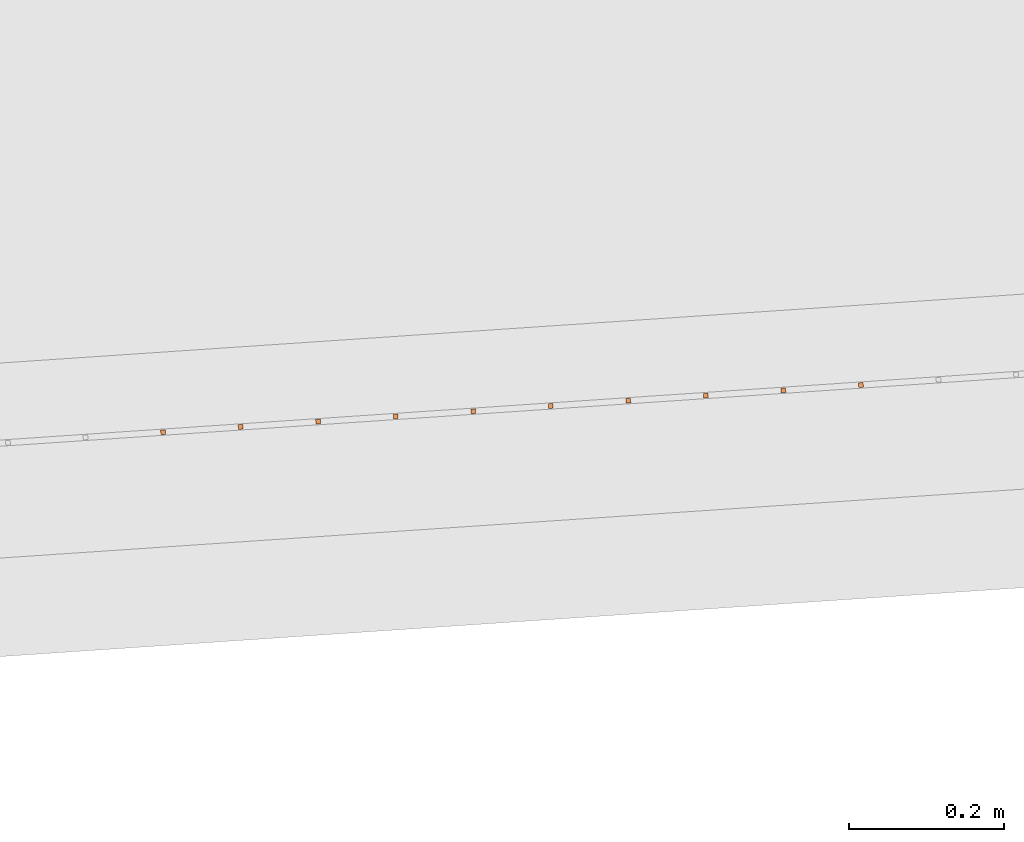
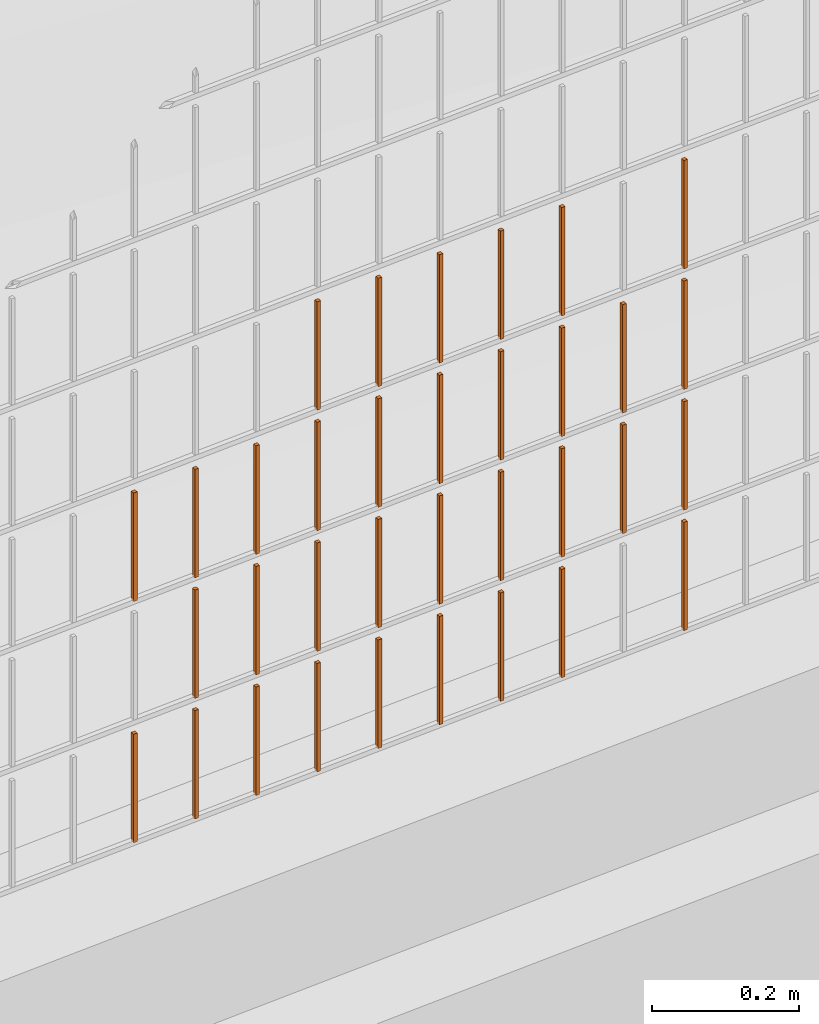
# One storey, part 383 of 1809: 34 proxies, 1 element without a shape of its own.
"""IFC2X3 building model written with IfcOpenShell, lengths in millimetres."""

from ifc_helpers import new_model, entity, si_unit, converted_unit, derived_unit, money_unit, direction, frame, origin_with_axes, place, context, subcontext, project, spatial, faceted_brep, source, transform, mapped, material, type_object, element, aggregate, save


model = new_model("IFC2X3")

# Units and contexts
model_context = context("Model", 3, precision=0.01, world=origin_with_axes(), true_north=direction((0.0, 1.0)))
body_context = subcontext(model_context, "Body", "Model", "MODEL_VIEW")
ifc_project = project(units=[si_unit("LENGTHUNIT", "METRE", prefix="MILLI"), si_unit("AREAUNIT", "SQUARE_METRE"), si_unit("VOLUMEUNIT", "CUBIC_METRE"), converted_unit("PLANEANGLEUNIT", "DEGREE", entity("IfcPlaneAngleMeasure", 0.0174532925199), si_unit("PLANEANGLEUNIT", "RADIAN"), dimensions=[0, 0, 0, 0, 0, 0, 0]), si_unit("SOLIDANGLEUNIT", "STERADIAN"), money_unit("EUR"), converted_unit("TIMEUNIT", "Year", entity("IfcTimeMeasure", 31556926.0), si_unit("TIMEUNIT", "SECOND"), dimensions=[0, 0, 1, 0, 0, 0, 0]), si_unit("MASSUNIT", "GRAM", prefix="KILO"), si_unit("THERMODYNAMICTEMPERATUREUNIT", "DEGREE_CELSIUS"), si_unit("LUMINOUSINTENSITYUNIT", "LUMEN"), si_unit("ENERGYUNIT", "JOULE", prefix="MEGA"), derived_unit("THERMALCONDUCTANCEUNIT", [(si_unit("POWERUNIT", "WATT"), 1), (si_unit("LENGTHUNIT", "METRE"), -1), (si_unit("THERMODYNAMICTEMPERATUREUNIT", "KELVIN"), -1)]), derived_unit("SPECIFICHEATCAPACITYUNIT", [(si_unit("ENERGYUNIT", "JOULE"), 1), (si_unit("MASSUNIT", "GRAM", prefix="KILO"), -1), (si_unit("THERMODYNAMICTEMPERATUREUNIT", "KELVIN"), -1)]), derived_unit("MASSDENSITYUNIT", [(si_unit("MASSUNIT", "GRAM", prefix="KILO"), 1), (si_unit("VOLUMEUNIT", "CUBIC_METRE"), -1)])], contexts=[model_context])

# Site, building, storey
site_placement = place(None, origin_with_axes())
site = spatial("IfcSite", under=ifc_project, at=site_placement, Name="Politse- ja Piirivalveameti ning Päästeameti ühishoone", CompositionType="ELEMENT")
building_placement = place(site_placement, origin_with_axes())
building = spatial("IfcBuilding", under=site, at=building_placement, Name="Politse- ja Piirivalveameti ning Päästeameti ühishoone", CompositionType="ELEMENT")
storey_placement = place(building_placement, origin_with_axes())
storey = spatial("IfcBuildingStorey", under=building, at=storey_placement, Name="Esimene korrus", CompositionType="ELEMENT", Elevation=0.0)

# Proxies
building_element_proxy_type_1 = type_object("IfcBuildingElementProxyType", Name="Railing Type", PredefinedType="NOTDEFINED")
proxy_1_placement = place(storey_placement, frame((89252.001212, -29183.4766571, 203.661247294), z_axis=(0.0, 0.0, 1.0), x_axis=(1.0, 0.0, 0.0)))
proxy_1 = element("IfcBuildingElementProxy", 1, at=proxy_1_placement, inside=storey, type_object=building_element_proxy_type_1, Name="PIIRDEAED")
ifc_material = material(Name="ET-03_Raud")
building_element_proxy_type_2 = type_object("IfcBuildingElementProxyType", Name="IfcBuildingElementProxy", PredefinedType="NOTDEFINED")
shared_shape_1 = source(origin_with_axes(), body_context, "Body", "Brep", [
    faceted_brep([(3.0, 3.0, -0.000752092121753), (-3.0, 3.0, -0.000752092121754), (-3.0, 3.0, 179.99926046), (3.0, 3.0, 179.99926046), (3.0, -3.0, 0.000752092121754), (-3.0, -3.0, 0.000752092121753), (-3.0, -3.0, 180.000764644), (3.0, -3.0, 180.000764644)], [[[0, 1, 2, 3]], [[0, 4, 5, 1]], [[1, 5, 6, 2]], [[3, 2, 6, 7]], [[4, 0, 3, 7]], [[5, 4, 7, 6]]]),
])
proxy_2_placement = place(proxy_1_placement, frame((-15192.0705547, -18323.9417948, 23.4170948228), z_axis=(0.0, 0.0, 1.0), x_axis=(1.0, 0.0, 0.0)))
proxy_2 = element("IfcBuildingElementProxy", 2, at=proxy_2_placement, type_object=building_element_proxy_type_2, material=ifc_material, Name="BALUSTER - 001", context=body_context, shape_type="MappedRepresentation", body=[
    mapped(shared_shape_1, transform((0.0, 0.0, 0.0), x_axis=(-0.0673926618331, 0.997726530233, 0.0), y_axis=(-0.997726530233, -0.0673926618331, 0.0), z_axis=(0.0, 0.0, 1.0))),
])
shared_shape_2 = source(origin_with_axes(), body_context, "Body", "Brep", [
    faceted_brep([(3.0, 3.0, -0.000752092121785), (-3.0, 3.0, -0.000752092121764), (-3.0, 3.0, 179.99926046), (3.0, 3.0, 179.99926046), (3.0, -3.0, 0.000752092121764), (-3.0, -3.0, 0.000752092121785), (-3.0, -3.0, 180.000764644), (3.0, -3.0, 180.000764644)], [[[0, 1, 2, 3]], [[0, 4, 5, 1]], [[1, 5, 6, 2]], [[3, 2, 6, 7]], [[4, 0, 3, 7]], [[5, 4, 7, 6]]]),
])
proxy_3_placement = place(proxy_1_placement, frame((-15890.4791259, -18371.1166581, 23.2416066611), z_axis=(0.0, 0.0, 1.0), x_axis=(1.0, 0.0, 0.0)))
proxy_3 = element("IfcBuildingElementProxy", 3, at=proxy_3_placement, type_object=building_element_proxy_type_2, material=ifc_material, Name="BALUSTER - 001", context=body_context, shape_type="MappedRepresentation", body=[
    mapped(shared_shape_2, transform((0.0, 0.0, 0.0), x_axis=(-0.0673926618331, 0.997726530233, 0.0), y_axis=(-0.997726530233, -0.0673926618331, 0.0), z_axis=(0.0, 0.0, 1.0))),
])
shared_shape_3 = source(origin_with_axes(), body_context, "Body", "Brep", [
    faceted_brep([(3.0, 3.0, -0.000752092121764), (-3.0, 3.0, -0.000752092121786), (-3.0, 3.0, 179.99926046), (3.0, 3.0, 179.99926046), (3.0, -3.0, 0.000752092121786), (-3.0, -3.0, 0.000752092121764), (-3.0, -3.0, 180.000764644), (3.0, -3.0, 180.000764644)], [[[0, 1, 2, 3]], [[0, 4, 5, 1]], [[1, 5, 6, 2]], [[3, 2, 6, 7]], [[4, 0, 3, 7]], [[5, 4, 7, 6]]]),
])
proxy_4_placement = place(proxy_1_placement, frame((-15391.6158608, -18337.4203271, 23.366955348), z_axis=(0.0, 0.0, 1.0), x_axis=(1.0, 0.0, 0.0)))
proxy_4 = element("IfcBuildingElementProxy", 4, at=proxy_4_placement, type_object=building_element_proxy_type_2, material=ifc_material, Name="BALUSTER - 001", context=body_context, shape_type="MappedRepresentation", body=[
    mapped(shared_shape_3, transform((0.0, 0.0, 0.0), x_axis=(-0.0673926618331, 0.997726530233, 0.0), y_axis=(-0.997726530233, -0.0673926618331, 0.0), z_axis=(0.0, 0.0, 1.0))),
])
proxy_5_placement = place(proxy_1_placement, frame((-15990.2517789, -18377.8559242, 23.2165369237), z_axis=(0.0, 0.0, 1.0), x_axis=(1.0, 0.0, 0.0)))
proxy_5 = element("IfcBuildingElementProxy", 5, at=proxy_5_placement, type_object=building_element_proxy_type_2, material=ifc_material, Name="BALUSTER - 001", context=body_context, shape_type="MappedRepresentation", body=[
    mapped(shared_shape_3, transform((0.0, 0.0, 0.0), x_axis=(-0.0673926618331, 0.997726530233, 0.0), y_axis=(-0.997726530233, -0.0673926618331, 0.0), z_axis=(0.0, 0.0, 1.0))),
])
shared_shape_4 = source(origin_with_axes(), body_context, "Body", "Brep", [
    faceted_brep([(3.0, 3.0, -0.000752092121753), (-3.0, 3.0, -0.000752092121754), (-3.0, 3.0, 179.99926046), (3.0, 3.0, 179.99926046), (3.0, -3.0, 0.000752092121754), (-3.0, -3.0, 0.000752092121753), (-3.0, -3.0, 180.000764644), (3.0, -3.0, 180.000764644)], [[[0, 1, 2, 3]], [[0, 4, 5, 1]], [[1, 5, 6, 2]], [[3, 2, 6, 7]], [[4, 0, 3, 7]], [[5, 4, 7, 6]]]),
])
proxy_6_placement = place(proxy_1_placement, frame((-15192.0705547, -18323.9417948, 423.417094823), z_axis=(0.0, 0.0, 1.0), x_axis=(1.0, 0.0, 0.0)))
proxy_6 = element("IfcBuildingElementProxy", 6, at=proxy_6_placement, type_object=building_element_proxy_type_2, material=ifc_material, Name="BALUSTER - 001", context=body_context, shape_type="MappedRepresentation", body=[
    mapped(shared_shape_4, transform((0.0, 0.0, 0.0), x_axis=(-0.0673926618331, 0.997726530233, 0.0), y_axis=(-0.997726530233, -0.0673926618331, 0.0), z_axis=(0.0, 0.0, 1.0))),
])
proxy_7_placement = place(proxy_1_placement, frame((-15192.0705547, -18323.9417948, 623.417094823), z_axis=(0.0, 0.0, 1.0), x_axis=(1.0, 0.0, 0.0)))
proxy_7 = element("IfcBuildingElementProxy", 7, at=proxy_7_placement, type_object=building_element_proxy_type_2, material=ifc_material, Name="BALUSTER - 001", context=body_context, shape_type="MappedRepresentation", body=[
    mapped(shared_shape_4, transform((0.0, 0.0, 0.0), x_axis=(-0.0673926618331, 0.997726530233, 0.0), y_axis=(-0.997726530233, -0.0673926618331, 0.0), z_axis=(0.0, 0.0, 1.0))),
])
shared_shape_5 = source(origin_with_axes(), body_context, "Body", "Brep", [
    faceted_brep([(3.0, 3.0, -0.000752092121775), (-3.0, 3.0, -0.000752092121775), (-3.0, 3.0, 179.99926046), (3.0, 3.0, 179.99926046), (3.0, -3.0, 0.000752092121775), (-3.0, -3.0, 0.000752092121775), (-3.0, -3.0, 180.000764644), (3.0, -3.0, 180.000764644)], [[[0, 1, 2, 3]], [[0, 4, 5, 1]], [[1, 5, 6, 2]], [[3, 2, 6, 7]], [[4, 0, 3, 7]], [[5, 4, 7, 6]]]),
])
proxy_8_placement = place(proxy_1_placement, frame((-15690.9338198, -18357.6381257, 423.291746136), z_axis=(0.0, 0.0, 1.0), x_axis=(1.0, 0.0, 0.0)))
proxy_8 = element("IfcBuildingElementProxy", 8, at=proxy_8_placement, type_object=building_element_proxy_type_2, material=ifc_material, Name="BALUSTER - 001", context=body_context, shape_type="MappedRepresentation", body=[
    mapped(shared_shape_5, transform((0.0, 0.0, 0.0), x_axis=(-0.0673926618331, 0.997726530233, 0.0), y_axis=(-0.997726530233, -0.0673926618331, 0.0), z_axis=(0.0, 0.0, 1.0))),
])
shared_shape_6 = source(origin_with_axes(), body_context, "Body", "Brep", [
    faceted_brep([(3.0, 3.0, -0.000752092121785), (-3.0, 3.0, -0.000752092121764), (-3.0, 3.0, 179.99926046), (3.0, 3.0, 179.99926046), (3.0, -3.0, 0.000752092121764), (-3.0, -3.0, 0.000752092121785), (-3.0, -3.0, 180.000764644), (3.0, -3.0, 180.000764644)], [[[0, 1, 2, 3]], [[0, 4, 5, 1]], [[1, 5, 6, 2]], [[3, 2, 6, 7]], [[4, 0, 3, 7]], [[5, 4, 7, 6]]]),
])
proxy_9_placement = place(proxy_1_placement, frame((-15890.4791259, -18371.1166581, 423.241606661), z_axis=(0.0, 0.0, 1.0), x_axis=(1.0, 0.0, 0.0)))
proxy_9 = element("IfcBuildingElementProxy", 9, at=proxy_9_placement, type_object=building_element_proxy_type_2, material=ifc_material, Name="BALUSTER - 001", context=body_context, shape_type="MappedRepresentation", body=[
    mapped(shared_shape_6, transform((0.0, 0.0, 0.0), x_axis=(-0.0673926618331, 0.997726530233, 0.0), y_axis=(-0.997726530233, -0.0673926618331, 0.0), z_axis=(0.0, 0.0, 1.0))),
])
shared_shape_7 = source(origin_with_axes(), body_context, "Body", "Brep", [
    faceted_brep([(3.0, 3.0, -0.000752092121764), (-3.0, 3.0, -0.000752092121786), (-3.0, 3.0, 179.99926046), (3.0, 3.0, 179.99926046), (3.0, -3.0, 0.000752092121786), (-3.0, -3.0, 0.000752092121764), (-3.0, -3.0, 180.000764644), (3.0, -3.0, 180.000764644)], [[[0, 1, 2, 3]], [[0, 4, 5, 1]], [[1, 5, 6, 2]], [[3, 2, 6, 7]], [[4, 0, 3, 7]], [[5, 4, 7, 6]]]),
])
proxy_10_placement = place(proxy_1_placement, frame((-15391.6158608, -18337.4203271, 223.366955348), z_axis=(0.0, 0.0, 1.0), x_axis=(1.0, 0.0, 0.0)))
proxy_10 = element("IfcBuildingElementProxy", 10, at=proxy_10_placement, type_object=building_element_proxy_type_2, material=ifc_material, Name="BALUSTER - 001", context=body_context, shape_type="MappedRepresentation", body=[
    mapped(shared_shape_7, transform((0.0, 0.0, 0.0), x_axis=(-0.0673926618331, 0.997726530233, 0.0), y_axis=(-0.997726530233, -0.0673926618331, 0.0), z_axis=(0.0, 0.0, 1.0))),
])
shared_shape_8 = source(origin_with_axes(), body_context, "Body", "Brep", [
    faceted_brep([(3.0, 3.0, -0.000752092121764), (-3.0, 3.0, -0.000752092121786), (-3.0, 3.0, 179.99926046), (3.0, 3.0, 179.99926046), (3.0, -3.0, 0.000752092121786), (-3.0, -3.0, 0.000752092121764), (-3.0, -3.0, 180.000764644), (3.0, -3.0, 180.000764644)], [[[0, 1, 2, 3]], [[0, 4, 5, 1]], [[1, 5, 6, 2]], [[3, 2, 6, 7]], [[4, 0, 3, 7]], [[5, 4, 7, 6]]]),
])
proxy_11_placement = place(proxy_1_placement, frame((-15990.2517789, -18377.8559242, 223.216536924), z_axis=(0.0, 0.0, 1.0), x_axis=(1.0, 0.0, 0.0)))
proxy_11 = element("IfcBuildingElementProxy", 11, at=proxy_11_placement, type_object=building_element_proxy_type_2, material=ifc_material, Name="BALUSTER - 001", context=body_context, shape_type="MappedRepresentation", body=[
    mapped(shared_shape_8, transform((0.0, 0.0, 0.0), x_axis=(-0.0673926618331, 0.997726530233, 0.0), y_axis=(-0.997726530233, -0.0673926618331, 0.0), z_axis=(0.0, 0.0, 1.0))),
])
shared_shape_9 = source(origin_with_axes(), body_context, "Body", "Brep", [
    faceted_brep([(3.0, 3.0, -0.000752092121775), (-3.0, 3.0, -0.000752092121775), (-3.0, 3.0, 179.99926046), (3.0, 3.0, 179.99926046), (3.0, -3.0, 0.000752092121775), (-3.0, -3.0, 0.000752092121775), (-3.0, -3.0, 180.000764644), (3.0, -3.0, 180.000764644)], [[[0, 1, 2, 3]], [[0, 4, 5, 1]], [[1, 5, 6, 2]], [[3, 2, 6, 7]], [[4, 0, 3, 7]], [[5, 4, 7, 6]]]),
])
proxy_12_placement = place(proxy_1_placement, frame((-15690.9338198, -18357.6381257, 223.291746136), z_axis=(0.0, 0.0, 1.0), x_axis=(1.0, 0.0, 0.0)))
proxy_12 = element("IfcBuildingElementProxy", 12, at=proxy_12_placement, type_object=building_element_proxy_type_2, material=ifc_material, Name="BALUSTER - 001", context=body_context, shape_type="MappedRepresentation", body=[
    mapped(shared_shape_9, transform((0.0, 0.0, 0.0), x_axis=(-0.0673926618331, 0.997726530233, 0.0), y_axis=(-0.997726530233, -0.0673926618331, 0.0), z_axis=(0.0, 0.0, 1.0))),
])
shared_shape_10 = source(origin_with_axes(), body_context, "Body", "Brep", [
    faceted_brep([(3.0, 3.0, -0.000752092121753), (-3.0, 3.0, -0.000752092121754), (-3.0, 3.0, 179.99926046), (3.0, 3.0, 179.99926046), (3.0, -3.0, 0.000752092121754), (-3.0, -3.0, 0.000752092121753), (-3.0, -3.0, 180.000764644), (3.0, -3.0, 180.000764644)], [[[0, 1, 2, 3]], [[0, 4, 5, 1]], [[1, 5, 6, 2]], [[3, 2, 6, 7]], [[4, 0, 3, 7]], [[5, 4, 7, 6]]]),
])
proxy_13_placement = place(proxy_1_placement, frame((-16090.0244319, -18384.5951904, 423.191467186), z_axis=(0.0, 0.0, 1.0), x_axis=(1.0, 0.0, 0.0)))
proxy_13 = element("IfcBuildingElementProxy", 13, at=proxy_13_placement, type_object=building_element_proxy_type_2, material=ifc_material, Name="BALUSTER - 001", context=body_context, shape_type="MappedRepresentation", body=[
    mapped(shared_shape_10, transform((0.0, 0.0, 0.0), x_axis=(-0.0673926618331, 0.997726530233, 0.0), y_axis=(-0.997726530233, -0.0673926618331, 0.0), z_axis=(0.0, 0.0, 1.0))),
])
shared_shape_11 = source(origin_with_axes(), body_context, "Body", "Brep", [
    faceted_brep([(3.0, 3.0, -0.000752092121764), (-3.0, 3.0, -0.000752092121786), (-3.0, 3.0, 179.99926046), (3.0, 3.0, 179.99926046), (3.0, -3.0, 0.000752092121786), (-3.0, -3.0, 0.000752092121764), (-3.0, -3.0, 180.000764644), (3.0, -3.0, 180.000764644)], [[[0, 1, 2, 3]], [[0, 4, 5, 1]], [[1, 5, 6, 2]], [[3, 2, 6, 7]], [[4, 0, 3, 7]], [[5, 4, 7, 6]]]),
])
proxy_14_placement = place(proxy_1_placement, frame((-15391.6158608, -18337.4203271, 423.366955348), z_axis=(0.0, 0.0, 1.0), x_axis=(1.0, 0.0, 0.0)))
proxy_14 = element("IfcBuildingElementProxy", 14, at=proxy_14_placement, type_object=building_element_proxy_type_2, material=ifc_material, Name="BALUSTER - 001", context=body_context, shape_type="MappedRepresentation", body=[
    mapped(shared_shape_11, transform((0.0, 0.0, 0.0), x_axis=(-0.0673926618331, 0.997726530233, 0.0), y_axis=(-0.997726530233, -0.0673926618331, 0.0), z_axis=(0.0, 0.0, 1.0))),
])
shared_shape_12 = source(origin_with_axes(), body_context, "Body", "Brep", [
    faceted_brep([(3.0, 3.0, -0.000752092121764), (-3.0, 3.0, -0.000752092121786), (-3.0, 3.0, 179.99926046), (3.0, 3.0, 179.99926046), (3.0, -3.0, 0.000752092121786), (-3.0, -3.0, 0.000752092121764), (-3.0, -3.0, 180.000764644), (3.0, -3.0, 180.000764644)], [[[0, 1, 2, 3]], [[0, 4, 5, 1]], [[1, 5, 6, 2]], [[3, 2, 6, 7]], [[4, 0, 3, 7]], [[5, 4, 7, 6]]]),
])
proxy_15_placement = place(proxy_1_placement, frame((-15990.2517789, -18377.8559242, 423.216536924), z_axis=(0.0, 0.0, 1.0), x_axis=(1.0, 0.0, 0.0)))
proxy_15 = element("IfcBuildingElementProxy", 15, at=proxy_15_placement, type_object=building_element_proxy_type_2, material=ifc_material, Name="BALUSTER - 001", context=body_context, shape_type="MappedRepresentation", body=[
    mapped(shared_shape_12, transform((0.0, 0.0, 0.0), x_axis=(-0.0673926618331, 0.997726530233, 0.0), y_axis=(-0.997726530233, -0.0673926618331, 0.0), z_axis=(0.0, 0.0, 1.0))),
])
proxy_16_placement = place(proxy_1_placement, frame((-15391.6158608, -18337.4203271, 623.366955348), z_axis=(0.0, 0.0, 1.0), x_axis=(1.0, 0.0, 0.0)))
proxy_16 = element("IfcBuildingElementProxy", 16, at=proxy_16_placement, type_object=building_element_proxy_type_2, material=ifc_material, Name="BALUSTER - 001", context=body_context, shape_type="MappedRepresentation", body=[
    mapped(shared_shape_12, transform((0.0, 0.0, 0.0), x_axis=(-0.0673926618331, 0.997726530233, 0.0), y_axis=(-0.997726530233, -0.0673926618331, 0.0), z_axis=(0.0, 0.0, 1.0))),
])
shared_shape_13 = source(origin_with_axes(), body_context, "Body", "Brep", [
    faceted_brep([(3.0, 3.0, -0.000752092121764), (-3.0, 3.0, -0.000752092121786), (-3.0, 3.0, 179.99926046), (3.0, 3.0, 179.99926046), (3.0, -3.0, 0.000752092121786), (-3.0, -3.0, 0.000752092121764), (-3.0, -3.0, 180.000764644), (3.0, -3.0, 180.000764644)], [[[0, 1, 2, 3]], [[0, 4, 5, 1]], [[1, 5, 6, 2]], [[3, 2, 6, 7]], [[4, 0, 3, 7]], [[5, 4, 7, 6]]]),
])
proxy_17_placement = place(proxy_1_placement, frame((-15491.3885138, -18344.1595933, 423.341885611), z_axis=(0.0, 0.0, 1.0), x_axis=(1.0, 0.0, 0.0)))
proxy_17 = element("IfcBuildingElementProxy", 17, at=proxy_17_placement, type_object=building_element_proxy_type_2, material=ifc_material, Name="BALUSTER - 001", context=body_context, shape_type="MappedRepresentation", body=[
    mapped(shared_shape_13, transform((0.0, 0.0, 0.0), x_axis=(-0.0673926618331, 0.997726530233, 0.0), y_axis=(-0.997726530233, -0.0673926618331, 0.0), z_axis=(0.0, 0.0, 1.0))),
])
shared_shape_14 = source(origin_with_axes(), body_context, "Body", "Brep", [
    faceted_brep([(3.0, 3.0, -0.000752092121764), (-3.0, 3.0, -0.000752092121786), (-3.0, 3.0, 179.99926046), (3.0, 3.0, 179.99926046), (3.0, -3.0, 0.000752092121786), (-3.0, -3.0, 0.000752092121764), (-3.0, -3.0, 180.000764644), (3.0, -3.0, 180.000764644)], [[[0, 1, 2, 3]], [[0, 4, 5, 1]], [[1, 5, 6, 2]], [[3, 2, 6, 7]], [[4, 0, 3, 7]], [[5, 4, 7, 6]]]),
])
proxy_18_placement = place(proxy_1_placement, frame((-15491.3885138, -18344.1595933, 623.341885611), z_axis=(0.0, 0.0, 1.0), x_axis=(1.0, 0.0, 0.0)))
proxy_18 = element("IfcBuildingElementProxy", 18, at=proxy_18_placement, type_object=building_element_proxy_type_2, material=ifc_material, Name="BALUSTER - 001", context=body_context, shape_type="MappedRepresentation", body=[
    mapped(shared_shape_14, transform((0.0, 0.0, 0.0), x_axis=(-0.0673926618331, 0.997726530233, 0.0), y_axis=(-0.997726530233, -0.0673926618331, 0.0), z_axis=(0.0, 0.0, 1.0))),
])
shared_shape_15 = source(origin_with_axes(), body_context, "Body", "Brep", [
    faceted_brep([(3.0, 3.0, -0.000752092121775), (-3.0, 3.0, -0.000752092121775), (-3.0, 3.0, 179.99926046), (3.0, 3.0, 179.99926046), (3.0, -3.0, 0.000752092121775), (-3.0, -3.0, 0.000752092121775), (-3.0, -3.0, 180.000764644), (3.0, -3.0, 180.000764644)], [[[0, 1, 2, 3]], [[0, 4, 5, 1]], [[1, 5, 6, 2]], [[3, 2, 6, 7]], [[4, 0, 3, 7]], [[5, 4, 7, 6]]]),
])
proxy_19_placement = place(proxy_1_placement, frame((-15790.7064729, -18364.3773919, 623.266676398), z_axis=(0.0, 0.0, 1.0), x_axis=(1.0, 0.0, 0.0)))
proxy_19 = element("IfcBuildingElementProxy", 19, at=proxy_19_placement, type_object=building_element_proxy_type_2, material=ifc_material, Name="BALUSTER - 001", context=body_context, shape_type="MappedRepresentation", body=[
    mapped(shared_shape_15, transform((0.0, 0.0, 0.0), x_axis=(-0.0673926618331, 0.997726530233, 0.0), y_axis=(-0.997726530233, -0.0673926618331, 0.0), z_axis=(0.0, 0.0, 1.0))),
])
shared_shape_16 = source(origin_with_axes(), body_context, "Body", "Brep", [
    faceted_brep([(3.0, 3.0, -0.000752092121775), (-3.0, 3.0, -0.000752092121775), (-3.0, 3.0, 179.99926046), (3.0, 3.0, 179.99926046), (3.0, -3.0, 0.000752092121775), (-3.0, -3.0, 0.000752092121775), (-3.0, -3.0, 180.000764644), (3.0, -3.0, 180.000764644)], [[[0, 1, 2, 3]], [[0, 4, 5, 1]], [[1, 5, 6, 2]], [[3, 2, 6, 7]], [[4, 0, 3, 7]], [[5, 4, 7, 6]]]),
])
proxy_20_placement = place(proxy_1_placement, frame((-15690.9338198, -18357.6381257, 23.2917461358), z_axis=(0.0, 0.0, 1.0), x_axis=(1.0, 0.0, 0.0)))
proxy_20 = element("IfcBuildingElementProxy", 20, at=proxy_20_placement, type_object=building_element_proxy_type_2, material=ifc_material, Name="BALUSTER - 001", context=body_context, shape_type="MappedRepresentation", body=[
    mapped(shared_shape_16, transform((0.0, 0.0, 0.0), x_axis=(-0.0673926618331, 0.997726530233, 0.0), y_axis=(-0.997726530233, -0.0673926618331, 0.0), z_axis=(0.0, 0.0, 1.0))),
])
shared_shape_17 = source(origin_with_axes(), body_context, "Body", "Brep", [
    faceted_brep([(3.0, 3.0, -0.000752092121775), (-3.0, 3.0, -0.000752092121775), (-3.0, 3.0, 179.99926046), (3.0, 3.0, 179.99926046), (3.0, -3.0, 0.000752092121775), (-3.0, -3.0, 0.000752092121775), (-3.0, -3.0, 180.000764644), (3.0, -3.0, 180.000764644)], [[[0, 1, 2, 3]], [[0, 4, 5, 1]], [[1, 5, 6, 2]], [[3, 2, 6, 7]], [[4, 0, 3, 7]], [[5, 4, 7, 6]]]),
])
proxy_21_placement = place(proxy_1_placement, frame((-15591.1611668, -18350.8988595, 623.316815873), z_axis=(0.0, 0.0, 1.0), x_axis=(1.0, 0.0, 0.0)))
proxy_21 = element("IfcBuildingElementProxy", 21, at=proxy_21_placement, type_object=building_element_proxy_type_2, material=ifc_material, Name="BALUSTER - 001", context=body_context, shape_type="MappedRepresentation", body=[
    mapped(shared_shape_17, transform((0.0, 0.0, 0.0), x_axis=(-0.0673926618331, 0.997726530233, 0.0), y_axis=(-0.997726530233, -0.0673926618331, 0.0), z_axis=(0.0, 0.0, 1.0))),
])
shared_shape_18 = source(origin_with_axes(), body_context, "Body", "Brep", [
    faceted_brep([(3.0, 3.0, -0.000752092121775), (-3.0, 3.0, -0.000752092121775), (-3.0, 3.0, 179.99926046), (3.0, 3.0, 179.99926046), (3.0, -3.0, 0.000752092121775), (-3.0, -3.0, 0.000752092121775), (-3.0, -3.0, 180.000764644), (3.0, -3.0, 180.000764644)], [[[0, 1, 2, 3]], [[0, 4, 5, 1]], [[1, 5, 6, 2]], [[3, 2, 6, 7]], [[4, 0, 3, 7]], [[5, 4, 7, 6]]]),
])
proxy_22_placement = place(proxy_1_placement, frame((-15790.7064729, -18364.3773919, 23.2666763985), z_axis=(0.0, 0.0, 1.0), x_axis=(1.0, 0.0, 0.0)))
proxy_22 = element("IfcBuildingElementProxy", 22, at=proxy_22_placement, type_object=building_element_proxy_type_2, material=ifc_material, Name="BALUSTER - 001", context=body_context, shape_type="MappedRepresentation", body=[
    mapped(shared_shape_18, transform((0.0, 0.0, 0.0), x_axis=(-0.0673926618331, 0.997726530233, 0.0), y_axis=(-0.997726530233, -0.0673926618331, 0.0), z_axis=(0.0, 0.0, 1.0))),
])
shared_shape_19 = source(origin_with_axes(), body_context, "Body", "Brep", [
    faceted_brep([(3.0, 3.0, -0.000752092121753), (-3.0, 3.0, -0.000752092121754), (-3.0, 3.0, 179.99926046), (3.0, 3.0, 179.99926046), (3.0, -3.0, 0.000752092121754), (-3.0, -3.0, 0.000752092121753), (-3.0, -3.0, 180.000764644), (3.0, -3.0, 180.000764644)], [[[0, 1, 2, 3]], [[0, 4, 5, 1]], [[1, 5, 6, 2]], [[3, 2, 6, 7]], [[4, 0, 3, 7]], [[5, 4, 7, 6]]]),
])
proxy_23_placement = place(proxy_1_placement, frame((-16090.0244319, -18384.5951904, 23.1914671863), z_axis=(0.0, 0.0, 1.0), x_axis=(1.0, 0.0, 0.0)))
proxy_23 = element("IfcBuildingElementProxy", 23, at=proxy_23_placement, type_object=building_element_proxy_type_2, material=ifc_material, Name="BALUSTER - 001", context=body_context, shape_type="MappedRepresentation", body=[
    mapped(shared_shape_19, transform((0.0, 0.0, 0.0), x_axis=(-0.0673926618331, 0.997726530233, 0.0), y_axis=(-0.997726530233, -0.0673926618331, 0.0), z_axis=(0.0, 0.0, 1.0))),
])
shared_shape_20 = source(origin_with_axes(), body_context, "Body", "Brep", [
    faceted_brep([(3.0, 3.0, -0.000752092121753), (-3.0, 3.0, -0.000752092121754), (-3.0, 3.0, 179.99926046), (3.0, 3.0, 179.99926046), (3.0, -3.0, 0.000752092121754), (-3.0, -3.0, 0.000752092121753), (-3.0, -3.0, 180.000764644), (3.0, -3.0, 180.000764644)], [[[0, 1, 2, 3]], [[0, 4, 5, 1]], [[1, 5, 6, 2]], [[3, 2, 6, 7]], [[4, 0, 3, 7]], [[5, 4, 7, 6]]]),
])
proxy_24_placement = place(proxy_1_placement, frame((-15192.0705547, -18323.9417948, 223.417094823), z_axis=(0.0, 0.0, 1.0), x_axis=(1.0, 0.0, 0.0)))
proxy_24 = element("IfcBuildingElementProxy", 24, at=proxy_24_placement, type_object=building_element_proxy_type_2, material=ifc_material, Name="BALUSTER - 001", context=body_context, shape_type="MappedRepresentation", body=[
    mapped(shared_shape_20, transform((0.0, 0.0, 0.0), x_axis=(-0.0673926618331, 0.997726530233, 0.0), y_axis=(-0.997726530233, -0.0673926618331, 0.0), z_axis=(0.0, 0.0, 1.0))),
])
shared_shape_21 = source(origin_with_axes(), body_context, "Body", "Brep", [
    faceted_brep([(3.0, 3.0, -0.000752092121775), (-3.0, 3.0, -0.000752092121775), (-3.0, 3.0, 179.99926046), (3.0, 3.0, 179.99926046), (3.0, -3.0, 0.000752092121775), (-3.0, -3.0, 0.000752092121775), (-3.0, -3.0, 180.000764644), (3.0, -3.0, 180.000764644)], [[[0, 1, 2, 3]], [[0, 4, 5, 1]], [[1, 5, 6, 2]], [[3, 2, 6, 7]], [[4, 0, 3, 7]], [[5, 4, 7, 6]]]),
])
proxy_25_placement = place(proxy_1_placement, frame((-15790.7064729, -18364.3773919, 223.266676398), z_axis=(0.0, 0.0, 1.0), x_axis=(1.0, 0.0, 0.0)))
proxy_25 = element("IfcBuildingElementProxy", 25, at=proxy_25_placement, type_object=building_element_proxy_type_2, material=ifc_material, Name="BALUSTER - 001", context=body_context, shape_type="MappedRepresentation", body=[
    mapped(shared_shape_21, transform((0.0, 0.0, 0.0), x_axis=(-0.0673926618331, 0.997726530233, 0.0), y_axis=(-0.997726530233, -0.0673926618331, 0.0), z_axis=(0.0, 0.0, 1.0))),
])
proxy_26_placement = place(proxy_1_placement, frame((-15591.1611668, -18350.8988595, 423.316815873), z_axis=(0.0, 0.0, 1.0), x_axis=(1.0, 0.0, 0.0)))
proxy_26 = element("IfcBuildingElementProxy", 26, at=proxy_26_placement, type_object=building_element_proxy_type_2, material=ifc_material, Name="BALUSTER - 001", context=body_context, shape_type="MappedRepresentation", body=[
    mapped(shared_shape_21, transform((0.0, 0.0, 0.0), x_axis=(-0.0673926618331, 0.997726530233, 0.0), y_axis=(-0.997726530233, -0.0673926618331, 0.0), z_axis=(0.0, 0.0, 1.0))),
])
proxy_27_placement = place(proxy_1_placement, frame((-15790.7064729, -18364.3773919, 423.266676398), z_axis=(0.0, 0.0, 1.0), x_axis=(1.0, 0.0, 0.0)))
proxy_27 = element("IfcBuildingElementProxy", 27, at=proxy_27_placement, type_object=building_element_proxy_type_2, material=ifc_material, Name="BALUSTER - 001", context=body_context, shape_type="MappedRepresentation", body=[
    mapped(shared_shape_21, transform((0.0, 0.0, 0.0), x_axis=(-0.0673926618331, 0.997726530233, 0.0), y_axis=(-0.997726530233, -0.0673926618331, 0.0), z_axis=(0.0, 0.0, 1.0))),
])
shared_shape_22 = source(origin_with_axes(), body_context, "Body", "Brep", [
    faceted_brep([(3.0, 3.0, -0.000752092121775), (-3.0, 3.0, -0.000752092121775), (-3.0, 3.0, 179.99926046), (3.0, 3.0, 179.99926046), (3.0, -3.0, 0.000752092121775), (-3.0, -3.0, 0.000752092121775), (-3.0, -3.0, 180.000764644), (3.0, -3.0, 180.000764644)], [[[0, 1, 2, 3]], [[0, 4, 5, 1]], [[1, 5, 6, 2]], [[3, 2, 6, 7]], [[4, 0, 3, 7]], [[5, 4, 7, 6]]]),
])
proxy_28_placement = place(proxy_1_placement, frame((-15591.1611668, -18350.8988595, 23.3168158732), z_axis=(0.0, 0.0, 1.0), x_axis=(1.0, 0.0, 0.0)))
proxy_28 = element("IfcBuildingElementProxy", 28, at=proxy_28_placement, type_object=building_element_proxy_type_2, material=ifc_material, Name="BALUSTER - 001", context=body_context, shape_type="MappedRepresentation", body=[
    mapped(shared_shape_22, transform((0.0, 0.0, 0.0), x_axis=(-0.0673926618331, 0.997726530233, 0.0), y_axis=(-0.997726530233, -0.0673926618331, 0.0), z_axis=(0.0, 0.0, 1.0))),
])
proxy_29_placement = place(proxy_1_placement, frame((-15591.1611668, -18350.8988595, 223.316815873), z_axis=(0.0, 0.0, 1.0), x_axis=(1.0, 0.0, 0.0)))
proxy_29 = element("IfcBuildingElementProxy", 29, at=proxy_29_placement, type_object=building_element_proxy_type_2, material=ifc_material, Name="BALUSTER - 001", context=body_context, shape_type="MappedRepresentation", body=[
    mapped(shared_shape_22, transform((0.0, 0.0, 0.0), x_axis=(-0.0673926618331, 0.997726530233, 0.0), y_axis=(-0.997726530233, -0.0673926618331, 0.0), z_axis=(0.0, 0.0, 1.0))),
])
shared_shape_23 = source(origin_with_axes(), body_context, "Body", "Brep", [
    faceted_brep([(3.0, 3.0, -0.000752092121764), (-3.0, 3.0, -0.000752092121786), (-3.0, 3.0, 179.99926046), (3.0, 3.0, 179.99926046), (3.0, -3.0, 0.000752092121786), (-3.0, -3.0, 0.000752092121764), (-3.0, -3.0, 180.000764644), (3.0, -3.0, 180.000764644)], [[[0, 1, 2, 3]], [[0, 4, 5, 1]], [[1, 5, 6, 2]], [[3, 2, 6, 7]], [[4, 0, 3, 7]], [[5, 4, 7, 6]]]),
])
proxy_30_placement = place(proxy_1_placement, frame((-15491.3885138, -18344.1595933, 23.3418856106), z_axis=(0.0, 0.0, 1.0), x_axis=(1.0, 0.0, 0.0)))
proxy_30 = element("IfcBuildingElementProxy", 30, at=proxy_30_placement, type_object=building_element_proxy_type_2, material=ifc_material, Name="BALUSTER - 001", context=body_context, shape_type="MappedRepresentation", body=[
    mapped(shared_shape_23, transform((0.0, 0.0, 0.0), x_axis=(-0.0673926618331, 0.997726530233, 0.0), y_axis=(-0.997726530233, -0.0673926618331, 0.0), z_axis=(0.0, 0.0, 1.0))),
])
shared_shape_24 = source(origin_with_axes(), body_context, "Body", "Brep", [
    faceted_brep([(3.0, 3.0, -0.000752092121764), (-3.0, 3.0, -0.000752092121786), (-3.0, 3.0, 179.99926046), (3.0, 3.0, 179.99926046), (3.0, -3.0, 0.000752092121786), (-3.0, -3.0, 0.000752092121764), (-3.0, -3.0, 180.000764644), (3.0, -3.0, 180.000764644)], [[[0, 1, 2, 3]], [[0, 4, 5, 1]], [[1, 5, 6, 2]], [[3, 2, 6, 7]], [[4, 0, 3, 7]], [[5, 4, 7, 6]]]),
])
proxy_31_placement = place(proxy_1_placement, frame((-15491.3885138, -18344.1595933, 223.341885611), z_axis=(0.0, 0.0, 1.0), x_axis=(1.0, 0.0, 0.0)))
proxy_31 = element("IfcBuildingElementProxy", 31, at=proxy_31_placement, type_object=building_element_proxy_type_2, material=ifc_material, Name="BALUSTER - 001", context=body_context, shape_type="MappedRepresentation", body=[
    mapped(shared_shape_24, transform((0.0, 0.0, 0.0), x_axis=(-0.0673926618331, 0.997726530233, 0.0), y_axis=(-0.997726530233, -0.0673926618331, 0.0), z_axis=(0.0, 0.0, 1.0))),
])
shared_shape_25 = source(origin_with_axes(), body_context, "Body", "Brep", [
    faceted_brep([(3.0, 3.0, -0.000752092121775), (-3.0, 3.0, -0.000752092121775), (-3.0, 3.0, 179.99926046), (3.0, 3.0, 179.99926046), (3.0, -3.0, 0.000752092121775), (-3.0, -3.0, 0.000752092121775), (-3.0, -3.0, 180.000764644), (3.0, -3.0, 180.000764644)], [[[0, 1, 2, 3]], [[0, 4, 5, 1]], [[1, 5, 6, 2]], [[3, 2, 6, 7]], [[4, 0, 3, 7]], [[5, 4, 7, 6]]]),
])
proxy_32_placement = place(proxy_1_placement, frame((-15690.9338198, -18357.6381257, 623.291746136), z_axis=(0.0, 0.0, 1.0), x_axis=(1.0, 0.0, 0.0)))
proxy_32 = element("IfcBuildingElementProxy", 32, at=proxy_32_placement, type_object=building_element_proxy_type_2, material=ifc_material, Name="BALUSTER - 001", context=body_context, shape_type="MappedRepresentation", body=[
    mapped(shared_shape_25, transform((0.0, 0.0, 0.0), x_axis=(-0.0673926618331, 0.997726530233, 0.0), y_axis=(-0.997726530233, -0.0673926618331, 0.0), z_axis=(0.0, 0.0, 1.0))),
])
shared_shape_26 = source(origin_with_axes(), body_context, "Body", "Brep", [
    faceted_brep([(3.0, 3.0, -0.000752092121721), (-3.0, 3.0, -0.000752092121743), (-3.0, 3.0, 179.99926046), (3.0, 3.0, 179.99926046), (3.0, -3.0, 0.000752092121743), (-3.0, -3.0, 0.000752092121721), (-3.0, -3.0, 180.000764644), (3.0, -3.0, 180.000764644)], [[[0, 1, 2, 3]], [[0, 4, 5, 1]], [[1, 5, 6, 2]], [[3, 2, 6, 7]], [[4, 0, 3, 7]], [[5, 4, 7, 6]]]),
])
proxy_33_placement = place(proxy_1_placement, frame((-15291.8432077, -18330.681061, 223.392025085), z_axis=(0.0, 0.0, 1.0), x_axis=(1.0, 0.0, 0.0)))
proxy_33 = element("IfcBuildingElementProxy", 33, at=proxy_33_placement, type_object=building_element_proxy_type_2, material=ifc_material, Name="BALUSTER - 001", context=body_context, shape_type="MappedRepresentation", body=[
    mapped(shared_shape_26, transform((0.0, 0.0, 0.0), x_axis=(-0.0673926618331, 0.997726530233, 0.0), y_axis=(-0.997726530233, -0.0673926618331, 0.0), z_axis=(0.0, 0.0, 1.0))),
])
proxy_34_placement = place(proxy_1_placement, frame((-15291.8432077, -18330.681061, 423.392025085), z_axis=(0.0, 0.0, 1.0), x_axis=(1.0, 0.0, 0.0)))
proxy_34 = element("IfcBuildingElementProxy", 34, at=proxy_34_placement, type_object=building_element_proxy_type_2, material=ifc_material, Name="BALUSTER - 001", context=body_context, shape_type="MappedRepresentation", body=[
    mapped(shared_shape_26, transform((0.0, 0.0, 0.0), x_axis=(-0.0673926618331, 0.997726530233, 0.0), y_axis=(-0.997726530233, -0.0673926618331, 0.0), z_axis=(0.0, 0.0, 1.0))),
])
shared_shape_27 = source(origin_with_axes(), body_context, "Body", "Brep", [
    faceted_brep([(3.0, 3.0, -0.000752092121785), (-3.0, 3.0, -0.000752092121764), (-3.0, 3.0, 179.99926046), (3.0, 3.0, 179.99926046), (3.0, -3.0, 0.000752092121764), (-3.0, -3.0, 0.000752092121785), (-3.0, -3.0, 180.000764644), (3.0, -3.0, 180.000764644)], [[[0, 1, 2, 3]], [[0, 4, 5, 1]], [[1, 5, 6, 2]], [[3, 2, 6, 7]], [[4, 0, 3, 7]], [[5, 4, 7, 6]]]),
])
proxy_35_placement = place(proxy_1_placement, frame((-15890.4791259, -18371.1166581, 223.241606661), z_axis=(0.0, 0.0, 1.0), x_axis=(1.0, 0.0, 0.0)))
proxy_35 = element("IfcBuildingElementProxy", 35, at=proxy_35_placement, type_object=building_element_proxy_type_2, material=ifc_material, Name="BALUSTER - 001", context=body_context, shape_type="MappedRepresentation", body=[
    mapped(shared_shape_27, transform((0.0, 0.0, 0.0), x_axis=(-0.0673926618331, 0.997726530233, 0.0), y_axis=(-0.997726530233, -0.0673926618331, 0.0), z_axis=(0.0, 0.0, 1.0))),
])
aggregate(proxy_1, [proxy_2, proxy_4, proxy_30, proxy_28, proxy_20, proxy_22, proxy_3, proxy_5, proxy_23, proxy_24, proxy_33, proxy_10, proxy_31, proxy_29, proxy_12, proxy_25, proxy_35, proxy_11, proxy_6, proxy_34, proxy_14, proxy_17, proxy_26, proxy_8, proxy_27, proxy_9, proxy_15, proxy_13, proxy_7, proxy_16, proxy_18, proxy_21, proxy_32, proxy_19])

save(model, "model.ifc")
